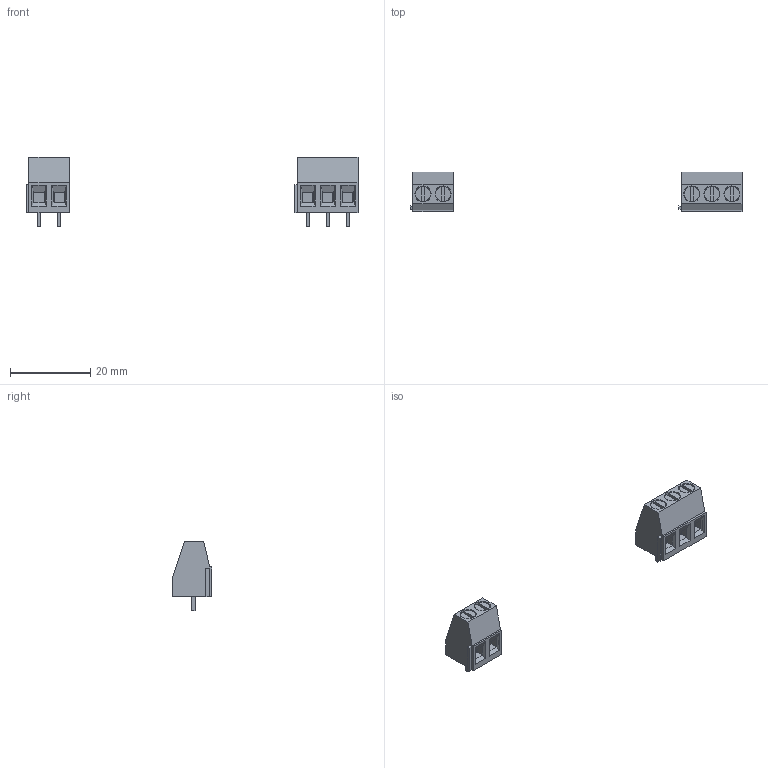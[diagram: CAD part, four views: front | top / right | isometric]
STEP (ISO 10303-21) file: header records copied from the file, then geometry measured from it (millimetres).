
FILE_DESCRIPTION(('KiCad electronic assembly'),'2;1');
FILE_NAME('MON-J1J2-kicad-orientation.step','2026-10-07T04:47:09',( 'Pcbnew'),('Kicad'),'Open CASCADE STEP processor 7.9', 'KiCad to STEP converter','Unknown');
FILE_SCHEMA(('AUTOMOTIVE_DESIGN { 1 0 10303 214 1 1 1 1 }'));
Length unit declared in the file: millimetre
Products named in the file (5): MON-J1J2-kicad-orientation 1; TerminalBlock_Phoenix_MKDS-1,5-3_1x03_P5.00mm_Horizontal; TerminalBlock_Phoenix_MKDS-1,5-2_1x02_P5.00mm_Horizontal
Assembly tree (4 placements, depth 3):
  MON-J1J2-kicad-orientation 1
    TerminalBlock_Phoenix_MKDS-1,5-3_1x03_P5.00mm_Horizontal
      TerminalBlock_Phoenix_MKDS-1,5-3_1x03_P5.00mm_Horizontal
    TerminalBlock_Phoenix_MKDS-1,5-2_1x02_P5.00mm_Horizontal
      TerminalBlock_Phoenix_MKDS-1,5-2_1x02_P5.00mm_Horizontal
Bounding box: 82.74 x 9.8 x 17.3 mm (x, y, z)
Volume: 2499 mm3; surface area: 3239.7 mm2
Topology: 2 solids, 2 shells, 214 faces, 540 edges, 340 vertices
Faces by surface type: plane 184, bspline 20, cylinder 10
Full cylindrical faces by diameter (mm): 3.8 x5, 4 x5
Entity records: 8494 total; most frequent: CARTESIAN_POINT 1179, ORIENTED_EDGE 1080, DIRECTION 1018, EDGE_CURVE 540, LINE 420, VECTOR 420, VERTEX_POINT 340, AXIS2_PLACEMENT_3D 299
